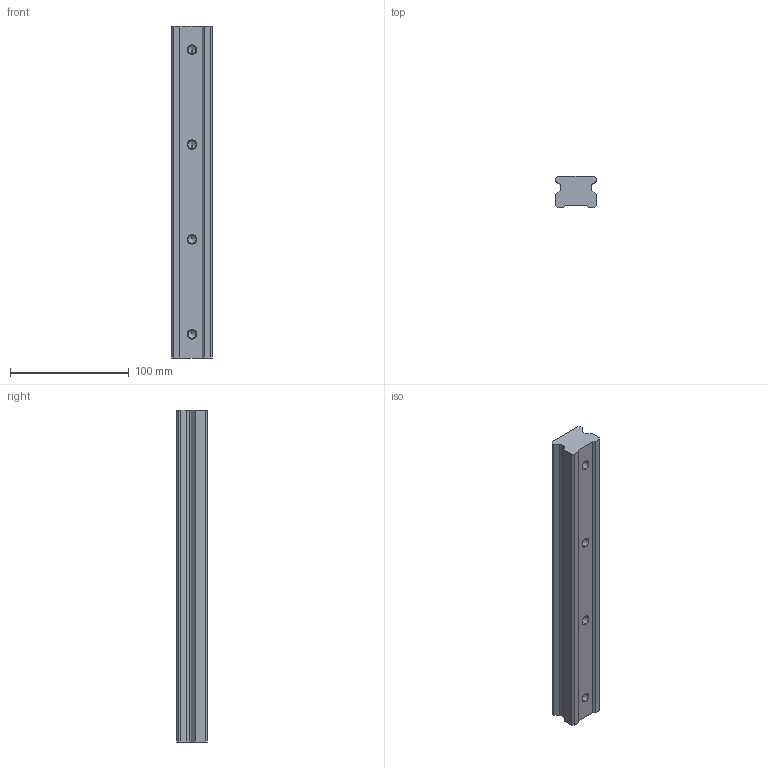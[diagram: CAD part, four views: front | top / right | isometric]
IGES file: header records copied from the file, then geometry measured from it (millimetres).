
Start section: SolidWorks IGES file using analytic representation for surfaces
Global section: file name: C:\Users\IanO\Desktop\Temp File\GENERAL\L1016_v2\L1016.RF35_v2\L1016.RF35_v2_20190612_IGES\L1016.RF35-0280.igs; native system: SolidWorks 2017; preprocessor: SolidWorks 2017; author: IanO; date: 190613.172453; units: millimetre
Bounding box: 34 x 26 x 280 mm (x, y, z)
Surface area: 38097.3 mm2 (no closed solid volume)
Topology: 0 solids, 0 shells, 54 faces, 648 edges, 640 vertices
Faces by surface type: revolution 28, bspline 26
